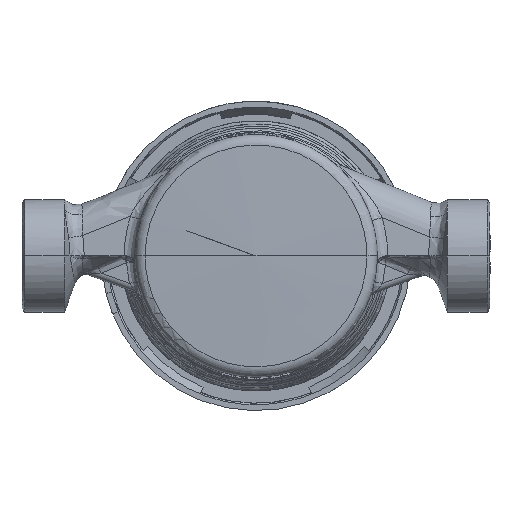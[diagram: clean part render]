
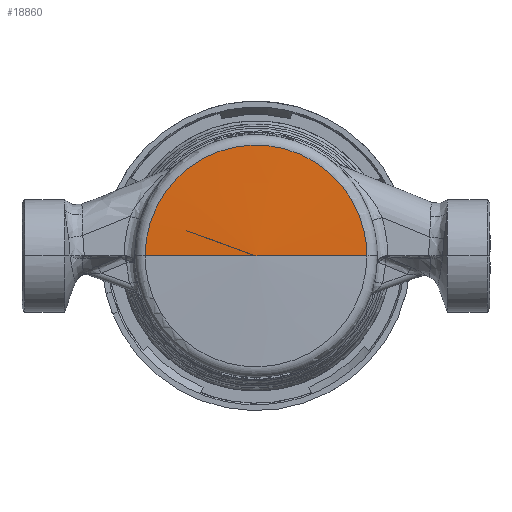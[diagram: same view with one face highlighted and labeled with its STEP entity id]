
A CAD part, front view. The second image highlights one B-rep face of the part: STEP entity #18860.
In plain terms, the highlighted conical face has half-angle 88.5 degrees and reference radius 38188.5 mm.
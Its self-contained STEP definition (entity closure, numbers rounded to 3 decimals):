
#913 = CARTESIAN_POINT ( 'NONE',  ( 8.399, -0.014, 24.734 ) ) ;
#1150 = CARTESIAN_POINT ( 'NONE',  ( 20.725, -0.014, 15.9 ) ) ;
#2750 = CARTESIAN_POINT ( 'NONE',  ( 0., -0.696, 0. ) ) ;
#6267 = CARTESIAN_POINT ( 'NONE',  ( -17.377, -0.241, 0. ) ) ;
#6985 = EDGE_CURVE ( 'NONE', #12668, #26409, #30523, .T. ) ;
#7918 = CARTESIAN_POINT ( 'NONE',  ( -25.897, -0.014, 3.412 ) ) ;
#8590 = CARTESIAN_POINT ( 'NONE',  ( -1.706, -0.014, 26.065 ) ) ;
#8745 = CARTESIAN_POINT ( 'NONE',  ( 0., 999.304, 0. ) ) ;
#9482 = VERTEX_POINT ( 'NONE', #26669 ) ;
#10923 = B_SPLINE_CURVE_WITH_KNOTS ( 'NONE', 3,
 ( #27941, #13772, #38372, #39303 ),
 .UNSPECIFIED., .F., .F.,
 ( 4, 4 ),
 ( 0., 1. ),
 .UNSPECIFIED. ) ;
#11387 = CARTESIAN_POINT ( 'NONE',  ( 1.706, -0.014, 26.065 ) ) ;
#11612 = CARTESIAN_POINT ( 'NONE',  ( 23.428, -0.014, 11.551 ) ) ;
#11838 = CARTESIAN_POINT ( 'NONE',  ( -20.725, -0.014, 15.9 ) ) ;
#12668 = VERTEX_POINT ( 'NONE', #21746 ) ;
#13772 = CARTESIAN_POINT ( 'NONE',  ( 8.688, -0.469, 0. ) ) ;
#14885 = CARTESIAN_POINT ( 'NONE',  ( -19.637, -0.014, 17.225 ) ) ;
#15121 = CARTESIAN_POINT ( 'NONE',  ( 17.225, -0.014, 19.637 ) ) ;
#15217 = ORIENTED_EDGE ( 'NONE', *, *, #6985, .T. ) ;
#15344 = CARTESIAN_POINT ( 'NONE',  ( 26.065, -0.014, 1.706 ) ) ;
#16039 = EDGE_LOOP ( 'NONE', ( #19227, #25555, #15217 ) ) ;
#18374 = CARTESIAN_POINT ( 'NONE',  ( -26.065, -0.014, 1.706 ) ) ;
#18604 = CARTESIAN_POINT ( 'NONE',  ( -17.225, -0.014, 19.637 ) ) ;
#18860 = ADVANCED_FACE ( 'NONE', ( #41234 ), #30334, .T. ) ;
#19061 = CARTESIAN_POINT ( 'NONE',  ( -23.428, -0.014, 11.551 ) ) ;
#19227 = ORIENTED_EDGE ( 'NONE', *, *, #29685, .T. ) ;
#21746 = CARTESIAN_POINT ( 'NONE',  ( -26.065, -0.014, 0. ) ) ;
#22095 = CARTESIAN_POINT ( 'NONE',  ( -8.399, -0.014, 24.734 ) ) ;
#22323 = CARTESIAN_POINT ( 'NONE',  ( 3.412, -0.014, 25.897 ) ) ;
#22559 = CARTESIAN_POINT ( 'NONE',  ( -3.412, -0.014, 25.897 ) ) ;
#22787 = CARTESIAN_POINT ( 'NONE',  ( -13.063, -0.014, 22.62 ) ) ;
#23093 = EDGE_CURVE ( 'NONE', #12668, #9482, #30329, .T. ) ;
#23160 = DIRECTION ( 'NONE',  ( -1., 0., 0. ) ) ;
#25555 = ORIENTED_EDGE ( 'NONE', *, *, #23093, .F. ) ;
#25783 = CARTESIAN_POINT ( 'NONE',  ( 25.232, -0.014, 6.758 ) ) ;
#26242 = CARTESIAN_POINT ( 'NONE',  ( -24.734, -0.014, 8.399 ) ) ;
#26409 = VERTEX_POINT ( 'NONE', #36025 ) ;
#26669 = CARTESIAN_POINT ( 'NONE',  ( 26.065, -0.014, 0. ) ) ;
#26939 = CARTESIAN_POINT ( 'NONE',  ( -8.688, -0.469, 0. ) ) ;
#27377 = AXIS2_PLACEMENT_3D ( 'NONE', #8745, #30325, #23160 ) ;
#27941 = CARTESIAN_POINT ( 'NONE',  ( 0., -0.696, 0. ) ) ;
#29022 = CARTESIAN_POINT ( 'NONE',  ( -11.551, -0.014, 23.428 ) ) ;
#29256 = CARTESIAN_POINT ( 'NONE',  ( 22.62, -0.014, 13.063 ) ) ;
#29478 = CARTESIAN_POINT ( 'NONE',  ( 26.065, -0.014, 0. ) ) ;
#29685 = EDGE_CURVE ( 'NONE', #26409, #9482, #10923, .T. ) ;
#30325 = DIRECTION ( 'NONE',  ( 0., 1., 0. ) ) ;
#30329 = B_SPLINE_CURVE_WITH_KNOTS ( 'NONE', 3,
 ( #36227, #18374, #7918, #40182, #26242, #19061, #43187, #11838, #14885, #18604, #36694, #22787, #29022, #22095, #36924, #22559, #8590, #11387, #22323, #32727, #913, #36458, #43423, #43886, #15121, #32496, #1150, #29256, #11612, #33188, #25783, #39935, #15344, #29478 ),
 .UNSPECIFIED., .F., .F.,
 ( 4, 2, 2, 2, 2, 2, 2, 2, 2, 2, 2, 2, 2, 2, 2, 2, 4 ),
 ( 0., 0.062, 0.125, 0.187, 0.25, 0.312, 0.375, 0.437, 0.5, 0.562, 0.625, 0.687, 0.75, 0.812, 0.875, 0.937, 1. ),
 .UNSPECIFIED. ) ;
#30334 = CONICAL_SURFACE ( 'NONE', #27377, 38188.459, 1.545 ) ;
#30523 = B_SPLINE_CURVE_WITH_KNOTS ( 'NONE', 3,
 ( #45499, #6267, #26939, #2750 ),
 .UNSPECIFIED., .F., .F.,
 ( 4, 4 ),
 ( 0., 1. ),
 .UNSPECIFIED. ) ;
#32496 = CARTESIAN_POINT ( 'NONE',  ( 19.637, -0.014, 17.225 ) ) ;
#32727 = CARTESIAN_POINT ( 'NONE',  ( 6.758, -0.014, 25.232 ) ) ;
#33188 = CARTESIAN_POINT ( 'NONE',  ( 24.734, -0.014, 8.399 ) ) ;
#36025 = CARTESIAN_POINT ( 'NONE',  ( 0., -0.696, 0. ) ) ;
#36227 = CARTESIAN_POINT ( 'NONE',  ( -26.065, -0.014, 0. ) ) ;
#36458 = CARTESIAN_POINT ( 'NONE',  ( 11.551, -0.014, 23.428 ) ) ;
#36694 = CARTESIAN_POINT ( 'NONE',  ( -15.9, -0.014, 20.725 ) ) ;
#36924 = CARTESIAN_POINT ( 'NONE',  ( -6.758, -0.014, 25.232 ) ) ;
#38372 = CARTESIAN_POINT ( 'NONE',  ( 17.377, -0.241, 0. ) ) ;
#39303 = CARTESIAN_POINT ( 'NONE',  ( 26.065, -0.014, 0. ) ) ;
#39935 = CARTESIAN_POINT ( 'NONE',  ( 25.897, -0.014, 3.412 ) ) ;
#40182 = CARTESIAN_POINT ( 'NONE',  ( -25.232, -0.014, 6.758 ) ) ;
#41234 = FACE_OUTER_BOUND ( 'NONE', #16039, .T. ) ;
#43187 = CARTESIAN_POINT ( 'NONE',  ( -22.62, -0.014, 13.063 ) ) ;
#43423 = CARTESIAN_POINT ( 'NONE',  ( 13.063, -0.014, 22.62 ) ) ;
#43886 = CARTESIAN_POINT ( 'NONE',  ( 15.9, -0.014, 20.725 ) ) ;
#45499 = CARTESIAN_POINT ( 'NONE',  ( -26.065, -0.014, 0. ) ) ;
